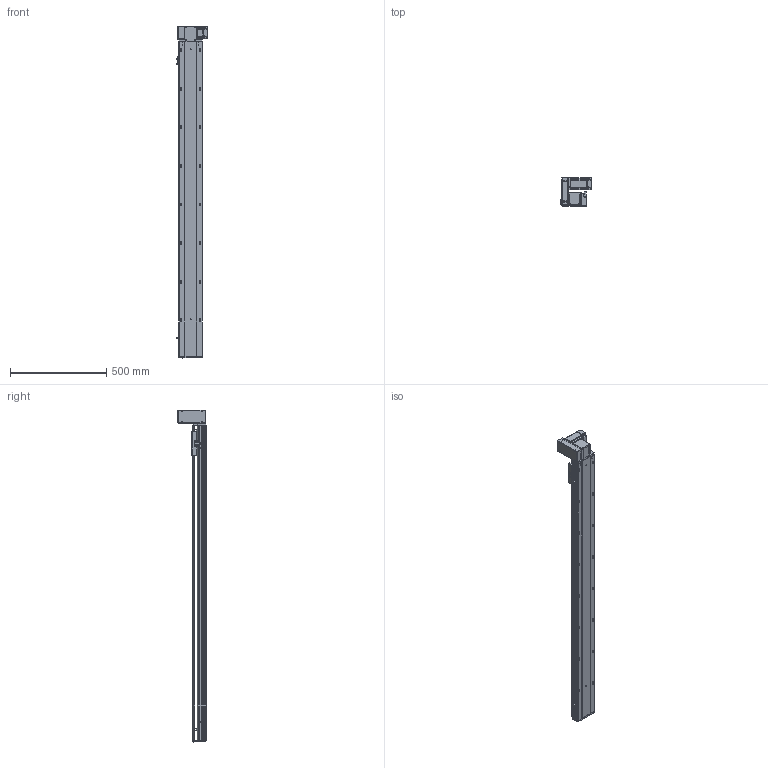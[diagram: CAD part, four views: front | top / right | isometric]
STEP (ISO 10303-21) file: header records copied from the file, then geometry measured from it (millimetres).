
FILE_DESCRIPTION (( 'STEP AP203' ), '1' );
FILE_NAME ('RY120-T-300-UL.SLDASM_1400.step', '2021-03-01T05:36:52', ( '盈信电脑' ), ( '东莞市道滘镇水果街19号' ), 'SwSTEP 2.0', 'SolidWorks 2012', '' );
FILE_SCHEMA (( 'CONFIG_CONTROL_DESIGN' ));
Length unit declared in the file: millimetre
Products named in the file (18): RY120-T萇儂欶; RY120-T翋肮祭謫裔啣; RY120-T-300-UL.SLDASM_1400; RY120-T蹟翐M4; 15; 侂狟400W侜督萇儂; RY120-T主同步轮轴承压盖; 滅袉蝶18-10; RY120-T肮祭湍揤踡輸1; RY120-T翋肮祭盓傅釱; RY120-T肮祭湍揤踡輸2; RY120-T萇儂假蚾啣; RY120外置感应片(140共用）; RY120綴裔啣; 覜茼ん672; RY120肮祭湍臏賑輸; RY120-T-300-UL倰第奻裔啣_1400; RY120-T-300-UL倰第菁釱_1400
Assembly tree (23 placements, depth 3):
  RY120-T-300-UL.SLDASM_1400
    RY120-T-300-UL倰第菁釱_1400
    RY120-T-300-UL倰第奻裔啣_1400
    RY120肮祭湍臏賑輸
    RY120綴裔啣
    覜茼ん672  x3
    RY120外置感应片(140共用）
    RY120-T肮祭湍揤踡輸1
    RY120-T肮祭湍揤踡輸2
    RY120-T翋肮祭盓傅釱
    RY120-T萇儂假蚾啣
    侂狟400W侜督萇儂
      15
    RY120-T主同步轮轴承压盖
    滅袉蝶18-10  x2
    RY120-T萇儂欶
    RY120-T蹟翐M4  x4
    RY120-T翋肮祭謫裔啣
Bounding box: 164.2 x 146 x 1721 mm (x, y, z)
Volume: 4494049.6 mm3; surface area: 1697381.1 mm2
Topology: 23 solids, 23 shells, 2910 faces, 7932 edges, 5068 vertices
Faces by surface type: plane 1422, cylinder 1120, cone 279, bspline 89
Entity records: 92724 total; most frequent: CARTESIAN_POINT 23624, ORIENTED_EDGE 14232, DIRECTION 13498, EDGE_CURVE 7116, VERTEX_POINT 4655, AXIS2_PLACEMENT_3D 4545, VECTOR 4408, LINE 4408
